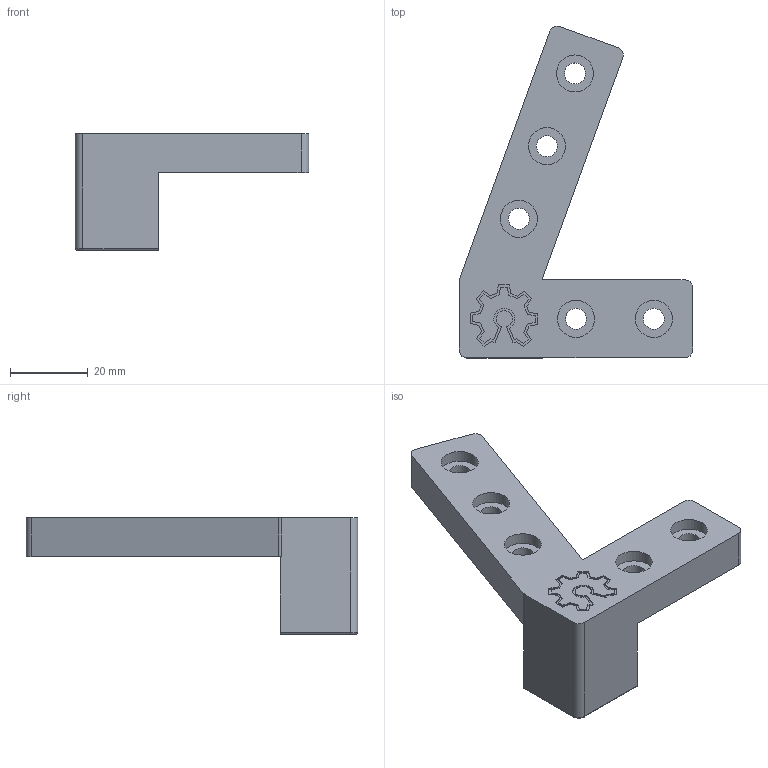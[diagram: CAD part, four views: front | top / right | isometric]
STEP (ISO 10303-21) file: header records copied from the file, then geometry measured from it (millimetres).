
FILE_DESCRIPTION(/* description */ (''),/* implementation_level */ '2;1');
FILE_NAME(/* name */ 'C:\Users\sab\Documents\Inventor\Maker Store Parts\Other Stuff\Christmas Tree V-Slot\Christmas Tree Corner Bracket Type 1 v2.stp',/* time_stamp */ '2025-12-05T06:58:57+11:00',/* author */ ('sab'),/* organization */ (''),/* preprocessor_version */ 'ST-DEVELOPER v17',/* originating_system */ 'Autodesk Inventor 2019',/* authorisation */ '');
FILE_SCHEMA (('AUTOMOTIVE_DESIGN { 1 0 10303 214 3 1 1 }'));
Length unit declared in the file: millimetre
Products named in the file (1): Christmas Tree Corner Bracket Type 1 v2
Bounding box: 60 x 85.22 x 30 mm (x, y, z)
Volume: 26516.1 mm3; surface area: 11548.7 mm2
Topology: 1 solids, 1 shells, 149 faces, 421 edges, 282 vertices
Faces by surface type: plane 123, cylinder 25, torus 1
Full cylindrical faces by diameter (mm): 5.4 x5, 9.5 x5
Entity records: 4849 total; most frequent: CARTESIAN_POINT 853, ORIENTED_EDGE 842, DIRECTION 783, EDGE_CURVE 421, LINE 359, VECTOR 359, VERTEX_POINT 282, AXIS2_PLACEMENT_3D 212
